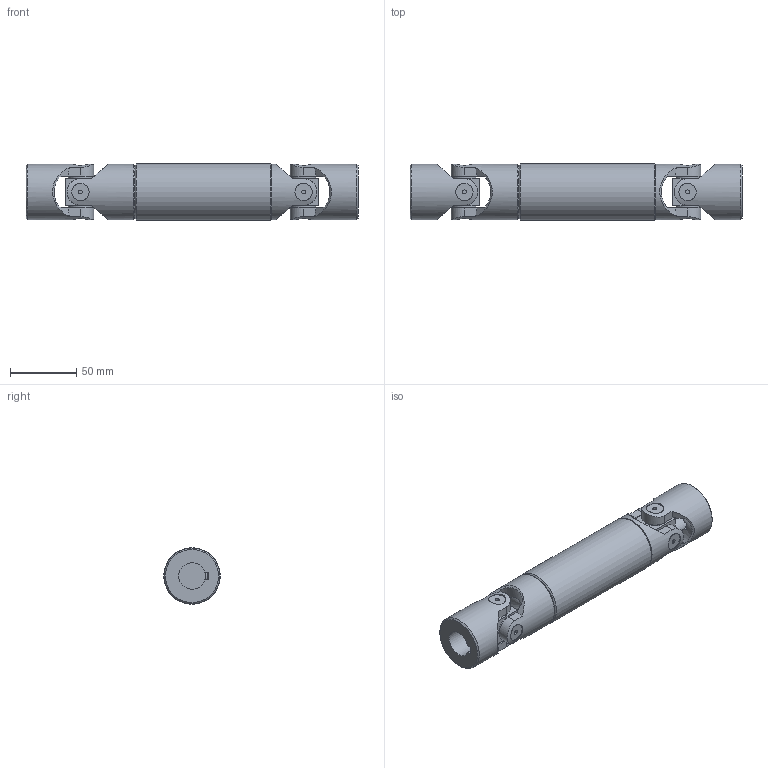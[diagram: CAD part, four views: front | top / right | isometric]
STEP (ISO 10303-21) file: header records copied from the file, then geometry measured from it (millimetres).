
FILE_DESCRIPTION(/* description */ (''),/* implementation_level */ '2;1');
FILE_NAME(/* name */ '\\SRV2016\Societa\Stefano\Disegni 3D\00Catalogo 3D\03Trasmissioni standard GA\3GA10\3GA10_SG0A2010.stp',/* time_stamp */ '2022-02-18T12:28:56+01:00',/* author */ ('acquisti'),/* organization */ (''),/* preprocessor_version */ 'ST-DEVELOPER v15.6',/* originating_system */ 'Autodesk Inventor 2015',/* authorisation */ '');
FILE_SCHEMA (('AUTOMOTIVE_DESIGN { 1 0 10303 214 3 1 1 }'));
Length unit declared in the file: millimetre
Products named in the file (5): 3GA10 LAI; 3GA10 LCI; 3G SFE; 3G MOC; 3GA10_SG0A2010
Assembly tree (6 placements, depth 2):
  3GA10_SG0A2010
    3GA10 LAI
    3GA10 LCI
    3G SFE  x2
    3G MOC  x2
Bounding box: 250 x 42.5 x 42.5 mm (x, y, z)
Volume: 258204 mm3; surface area: 72169.4 mm2
Topology: 6 solids, 6 shells, 228 faces, 561 edges, 369 vertices
Faces by surface type: plane 106, cylinder 93, cone 25, torus 4
Full cylindrical faces by diameter (mm): 3 x8, 18 x8, 20 x1, 22 x2, 35 x1, 42 x4, 42.5 x1
Entity records: 5785 total; most frequent: CARTESIAN_POINT 1675, DIRECTION 823, ORIENTED_EDGE 820, EDGE_CURVE 410, AXIS2_PLACEMENT_3D 335, VERTEX_POINT 286, EDGE_LOOP 224, FACE_OUTER_BOUND 176
